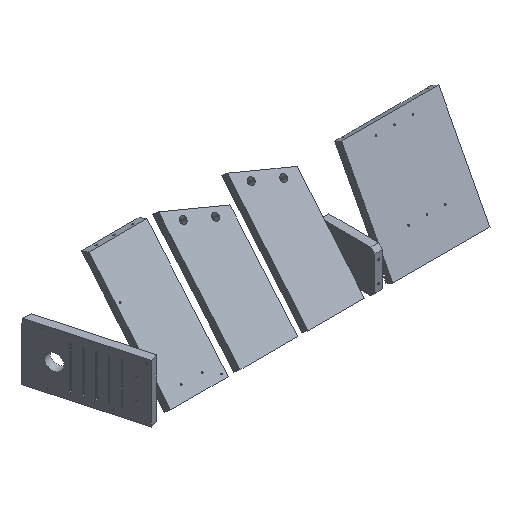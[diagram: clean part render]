
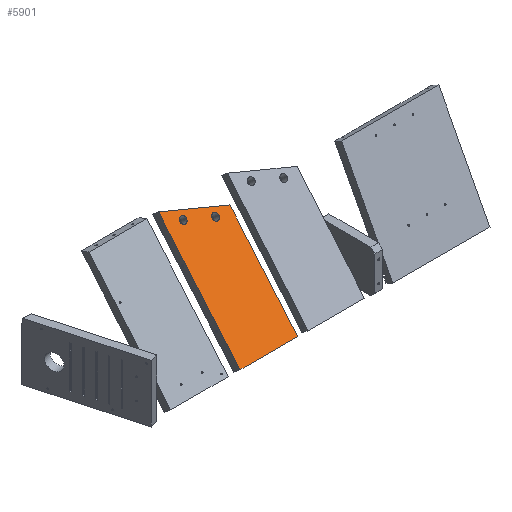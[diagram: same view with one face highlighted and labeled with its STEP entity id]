
A CAD part, isometric view. The second image highlights one B-rep face of the part: STEP entity #5901.
In plain terms, the highlighted planar face has unit normal (0, -0.763, 0.646).
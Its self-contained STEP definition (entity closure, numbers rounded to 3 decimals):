
#5428 = VERTEX_POINT('',#5429);
#5429 = CARTESIAN_POINT('',(282.863,0.,
    12.304));
#5436 = PLANE('',#5437);
#5437 = AXIS2_PLACEMENT_3D('',#5438,#5439,#5440);
#5438 = CARTESIAN_POINT('',(282.863,14.543,0.));
#5439 = DIRECTION('',(0.,0.646,0.763));
#5440 = DIRECTION('',(1.,0.,0.));
#5448 = PLANE('',#5449);
#5449 = AXIS2_PLACEMENT_3D('',#5450,#5451,#5452);
#5450 = CARTESIAN_POINT('',(282.863,211.408,
    232.696));
#5451 = DIRECTION('',(1.,0.,0.));
#5452 = DIRECTION('',(0.,-0.646,-0.763));
#5460 = EDGE_CURVE('',#5428,#5461,#5463,.T.);
#5461 = VERTEX_POINT('',#5462);
#5462 = CARTESIAN_POINT('',(422.563,0.,
    12.304));
#5463 = SURFACE_CURVE('',#5464,(#5468,#5475),.PCURVE_S1.);
#5464 = LINE('',#5465,#5466);
#5465 = CARTESIAN_POINT('',(282.863,0.,
    12.304));
#5466 = VECTOR('',#5467,1.);
#5467 = DIRECTION('',(1.,0.,0.));
#5468 = PCURVE('',#5436,#5469);
#5469 = DEFINITIONAL_REPRESENTATION('',(#5470),#5474);
#5470 = LINE('',#5471,#5472);
#5471 = CARTESIAN_POINT('',(0.,-19.05));
#5472 = VECTOR('',#5473,1.);
#5473 = DIRECTION('',(1.,0.));
#5474 = ( GEOMETRIC_REPRESENTATION_CONTEXT(2) 
PARAMETRIC_REPRESENTATION_CONTEXT() REPRESENTATION_CONTEXT('2D SPACE',''
  ) );
#5475 = PCURVE('',#5476,#5481);
#5476 = PLANE('',#5477);
#5477 = AXIS2_PLACEMENT_3D('',#5478,#5479,#5480);
#5478 = CARTESIAN_POINT('',(348.524,91.675,
    120.664));
#5479 = DIRECTION('',(0.,-0.763,0.646));
#5480 = DIRECTION('',(1.,0.,0.));
#5481 = DEFINITIONAL_REPRESENTATION('',(#5482),#5486);
#5482 = LINE('',#5483,#5484);
#5483 = CARTESIAN_POINT('',(-65.661,-141.937));
#5484 = VECTOR('',#5485,1.);
#5485 = DIRECTION('',(1.,0.));
#5486 = ( GEOMETRIC_REPRESENTATION_CONTEXT(2) 
PARAMETRIC_REPRESENTATION_CONTEXT() REPRESENTATION_CONTEXT('2D SPACE',''
  ) );
#5504 = PLANE('',#5505);
#5505 = AXIS2_PLACEMENT_3D('',#5506,#5507,#5508);
#5506 = CARTESIAN_POINT('',(422.563,14.543,0.));
#5507 = DIRECTION('',(-1.,0.,0.));
#5508 = DIRECTION('',(0.,0.646,0.763));
#5548 = VERTEX_POINT('',#5549);
#5549 = CARTESIAN_POINT('',(282.863,196.864,245.));
#5563 = PLANE('',#5564);
#5564 = AXIS2_PLACEMENT_3D('',#5565,#5566,#5567);
#5565 = CARTESIAN_POINT('',(422.563,178.597,
    193.913));
#5566 = DIRECTION('',(-0.342,-0.607,-0.717));
#5567 = DIRECTION('',(-0.94,0.221,0.261));
#5575 = EDGE_CURVE('',#5548,#5428,#5576,.T.);
#5576 = SURFACE_CURVE('',#5577,(#5581,#5588),.PCURVE_S1.);
#5577 = LINE('',#5578,#5579);
#5578 = CARTESIAN_POINT('',(282.863,196.864,245.));
#5579 = VECTOR('',#5580,1.);
#5580 = DIRECTION('',(0.,-0.646,-0.763));
#5581 = PCURVE('',#5448,#5582);
#5582 = DEFINITIONAL_REPRESENTATION('',(#5583),#5587);
#5583 = LINE('',#5584,#5585);
#5584 = CARTESIAN_POINT('',(0.,-19.05));
#5585 = VECTOR('',#5586,1.);
#5586 = DIRECTION('',(1.,0.));
#5587 = ( GEOMETRIC_REPRESENTATION_CONTEXT(2) 
PARAMETRIC_REPRESENTATION_CONTEXT() REPRESENTATION_CONTEXT('2D SPACE',''
  ) );
#5588 = PCURVE('',#5476,#5589);
#5589 = DEFINITIONAL_REPRESENTATION('',(#5590),#5594);
#5590 = LINE('',#5591,#5592);
#5591 = CARTESIAN_POINT('',(-65.661,162.863));
#5592 = VECTOR('',#5593,1.);
#5593 = DIRECTION('',(0.,-1.));
#5594 = ( GEOMETRIC_REPRESENTATION_CONTEXT(2) 
PARAMETRIC_REPRESENTATION_CONTEXT() REPRESENTATION_CONTEXT('2D SPACE',''
  ) );
#5684 = EDGE_CURVE('',#5461,#5685,#5687,.T.);
#5685 = VERTEX_POINT('',#5686);
#5686 = CARTESIAN_POINT('',(422.563,164.054,
    206.217));
#5687 = SURFACE_CURVE('',#5688,(#5692,#5699),.PCURVE_S1.);
#5688 = LINE('',#5689,#5690);
#5689 = CARTESIAN_POINT('',(422.563,0.,
    12.304));
#5690 = VECTOR('',#5691,1.);
#5691 = DIRECTION('',(0.,0.646,0.763));
#5692 = PCURVE('',#5504,#5693);
#5693 = DEFINITIONAL_REPRESENTATION('',(#5694),#5698);
#5694 = LINE('',#5695,#5696);
#5695 = CARTESIAN_POINT('',(0.,-19.05));
#5696 = VECTOR('',#5697,1.);
#5697 = DIRECTION('',(1.,0.));
#5698 = ( GEOMETRIC_REPRESENTATION_CONTEXT(2) 
PARAMETRIC_REPRESENTATION_CONTEXT() REPRESENTATION_CONTEXT('2D SPACE',''
  ) );
#5699 = PCURVE('',#5476,#5700);
#5700 = DEFINITIONAL_REPRESENTATION('',(#5701),#5705);
#5701 = LINE('',#5702,#5703);
#5702 = CARTESIAN_POINT('',(74.039,-141.937));
#5703 = VECTOR('',#5704,1.);
#5704 = DIRECTION('',(0.,1.));
#5705 = ( GEOMETRIC_REPRESENTATION_CONTEXT(2) 
PARAMETRIC_REPRESENTATION_CONTEXT() REPRESENTATION_CONTEXT('2D SPACE',''
  ) );
#5859 = CYLINDRICAL_SURFACE('',#5860,7.938);
#5860 = AXIS2_PLACEMENT_3D('',#5861,#5862,#5863);
#5861 = CARTESIAN_POINT('',(384.463,176.005,
    189.301));
#5862 = DIRECTION('',(0.,-0.763,0.646));
#5863 = DIRECTION('',(1.,0.,0.));
#5890 = CYLINDRICAL_SURFACE('',#5891,7.938);
#5891 = AXIS2_PLACEMENT_3D('',#5892,#5893,#5894);
#5892 = CARTESIAN_POINT('',(320.963,190.919,
    206.93));
#5893 = DIRECTION('',(0.,-0.763,0.646));
#5894 = DIRECTION('',(1.,0.,0.));
#5901 = ADVANCED_FACE('',(#5902,#5928,#5954),#5476,.T.);
#5902 = FACE_BOUND('',#5903,.T.);
#5903 = EDGE_LOOP('',(#5904,#5905,#5906,#5927));
#5904 = ORIENTED_EDGE('',*,*,#5460,.T.);
#5905 = ORIENTED_EDGE('',*,*,#5684,.T.);
#5906 = ORIENTED_EDGE('',*,*,#5907,.T.);
#5907 = EDGE_CURVE('',#5685,#5548,#5908,.T.);
#5908 = SURFACE_CURVE('',#5909,(#5913,#5920),.PCURVE_S1.);
#5909 = LINE('',#5910,#5911);
#5910 = CARTESIAN_POINT('',(422.563,164.054,
    206.217));
#5911 = VECTOR('',#5912,1.);
#5912 = DIRECTION('',(-0.94,0.221,0.261));
#5913 = PCURVE('',#5476,#5914);
#5914 = DEFINITIONAL_REPRESENTATION('',(#5915),#5919);
#5915 = LINE('',#5916,#5917);
#5916 = CARTESIAN_POINT('',(74.039,112.063));
#5917 = VECTOR('',#5918,1.);
#5918 = DIRECTION('',(-0.94,0.342));
#5919 = ( GEOMETRIC_REPRESENTATION_CONTEXT(2) 
PARAMETRIC_REPRESENTATION_CONTEXT() REPRESENTATION_CONTEXT('2D SPACE',''
  ) );
#5920 = PCURVE('',#5563,#5921);
#5921 = DEFINITIONAL_REPRESENTATION('',(#5922),#5926);
#5922 = LINE('',#5923,#5924);
#5923 = CARTESIAN_POINT('',(0.,-19.05));
#5924 = VECTOR('',#5925,1.);
#5925 = DIRECTION('',(1.,0.));
#5926 = ( GEOMETRIC_REPRESENTATION_CONTEXT(2) 
PARAMETRIC_REPRESENTATION_CONTEXT() REPRESENTATION_CONTEXT('2D SPACE',''
  ) );
#5927 = ORIENTED_EDGE('',*,*,#5575,.T.);
#5928 = FACE_BOUND('',#5929,.T.);
#5929 = EDGE_LOOP('',(#5930));
#5930 = ORIENTED_EDGE('',*,*,#5931,.F.);
#5931 = EDGE_CURVE('',#5932,#5932,#5934,.T.);
#5932 = VERTEX_POINT('',#5933);
#5933 = CARTESIAN_POINT('',(392.4,160.698,
    202.251));
#5934 = SURFACE_CURVE('',#5935,(#5940,#5947),.PCURVE_S1.);
#5935 = CIRCLE('',#5936,7.938);
#5936 = AXIS2_PLACEMENT_3D('',#5937,#5938,#5939);
#5937 = CARTESIAN_POINT('',(384.463,160.698,
    202.251));
#5938 = DIRECTION('',(0.,-0.763,0.646));
#5939 = DIRECTION('',(1.,0.,0.));
#5940 = PCURVE('',#5476,#5941);
#5941 = DEFINITIONAL_REPRESENTATION('',(#5942),#5946);
#5942 = CIRCLE('',#5943,7.938);
#5943 = AXIS2_PLACEMENT_2D('',#5944,#5945);
#5944 = CARTESIAN_POINT('',(35.939,106.867));
#5945 = DIRECTION('',(1.,0.));
#5946 = ( GEOMETRIC_REPRESENTATION_CONTEXT(2) 
PARAMETRIC_REPRESENTATION_CONTEXT() REPRESENTATION_CONTEXT('2D SPACE',''
  ) );
#5947 = PCURVE('',#5859,#5948);
#5948 = DEFINITIONAL_REPRESENTATION('',(#5949),#5953);
#5949 = LINE('',#5950,#5951);
#5950 = CARTESIAN_POINT('',(0.,20.05));
#5951 = VECTOR('',#5952,1.);
#5952 = DIRECTION('',(1.,0.));
#5953 = ( GEOMETRIC_REPRESENTATION_CONTEXT(2) 
PARAMETRIC_REPRESENTATION_CONTEXT() REPRESENTATION_CONTEXT('2D SPACE',''
  ) );
#5954 = FACE_BOUND('',#5955,.T.);
#5955 = EDGE_LOOP('',(#5956));
#5956 = ORIENTED_EDGE('',*,*,#5957,.F.);
#5957 = EDGE_CURVE('',#5958,#5958,#5960,.T.);
#5958 = VERTEX_POINT('',#5959);
#5959 = CARTESIAN_POINT('',(328.9,175.612,
    219.879));
#5960 = SURFACE_CURVE('',#5961,(#5966,#5973),.PCURVE_S1.);
#5961 = CIRCLE('',#5962,7.938);
#5962 = AXIS2_PLACEMENT_3D('',#5963,#5964,#5965);
#5963 = CARTESIAN_POINT('',(320.963,175.612,
    219.879));
#5964 = DIRECTION('',(0.,-0.763,0.646));
#5965 = DIRECTION('',(1.,0.,0.));
#5966 = PCURVE('',#5476,#5967);
#5967 = DEFINITIONAL_REPRESENTATION('',(#5968),#5972);
#5968 = CIRCLE('',#5969,7.938);
#5969 = AXIS2_PLACEMENT_2D('',#5970,#5971);
#5970 = CARTESIAN_POINT('',(-27.561,129.958));
#5971 = DIRECTION('',(1.,0.));
#5972 = ( GEOMETRIC_REPRESENTATION_CONTEXT(2) 
PARAMETRIC_REPRESENTATION_CONTEXT() REPRESENTATION_CONTEXT('2D SPACE',''
  ) );
#5973 = PCURVE('',#5890,#5974);
#5974 = DEFINITIONAL_REPRESENTATION('',(#5975),#5979);
#5975 = LINE('',#5976,#5977);
#5976 = CARTESIAN_POINT('',(0.,20.05));
#5977 = VECTOR('',#5978,1.);
#5978 = DIRECTION('',(1.,0.));
#5979 = ( GEOMETRIC_REPRESENTATION_CONTEXT(2) 
PARAMETRIC_REPRESENTATION_CONTEXT() REPRESENTATION_CONTEXT('2D SPACE',''
  ) );
